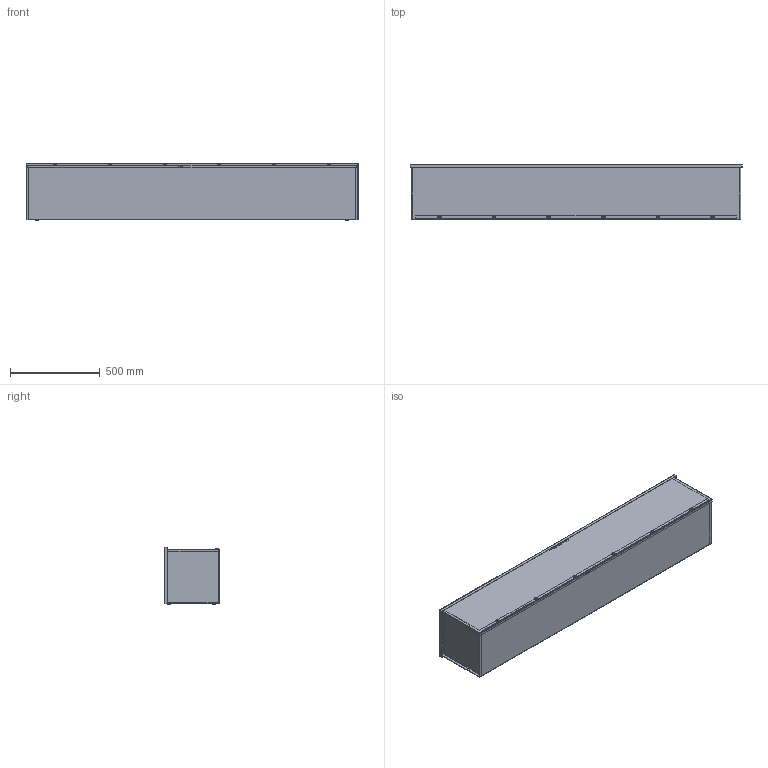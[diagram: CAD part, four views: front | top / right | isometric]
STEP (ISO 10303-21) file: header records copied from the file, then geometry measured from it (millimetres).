
FILE_DESCRIPTION (( 'STEP AP203' ), '1' );
FILE_NAME ('a1212172rt.STEP', '2010-03-11T16:47:34', ( 'Hoffman User' ), ( 'Hoffman Enclosures' ), 'SwSTEP 2.0', 'SolidWorks 2009', '' );
FILE_SCHEMA (( 'CONFIG_CONTROL_DESIGN' ));
Length unit declared in the file: inch
Products named in the file (6): Body_Long_12x12x72; End_12x12; a1212172rt; WmtBody_3RT_Long_12x12x72; Support_43121001; Cover_3RT_12x72
Assembly tree (6 placements, depth 3):
  a1212172rt
    WmtBody_3RT_Long_12x12x72
      Support_43121001
      End_12x12  x2
      Body_Long_12x12x72
    Cover_3RT_12x72
Bounding box: 1851.15 x 310.11 x 320.04 mm (x, y, z)
Volume: 4714970.2 mm3; surface area: 5186450.5 mm2
Topology: 11 solids, 11 shells, 366 faces, 794 edges, 454 vertices
Faces by surface type: plane 156, cylinder 104, cone 42, torus 40, bspline 24
Entity records: 10560 total; most frequent: CARTESIAN_POINT 2550, DIRECTION 1628, ORIENTED_EDGE 1436, EDGE_CURVE 718, AXIS2_PLACEMENT_3D 628, VERTEX_POINT 414, EDGE_LOOP 384, LINE 372
